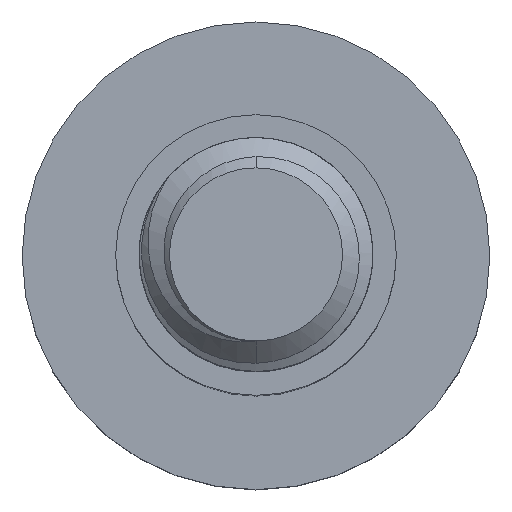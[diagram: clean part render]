
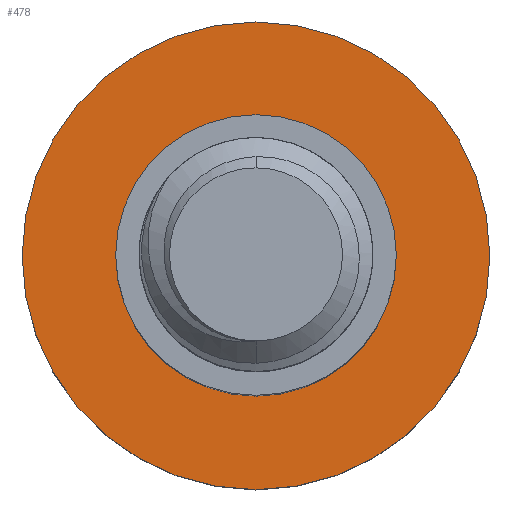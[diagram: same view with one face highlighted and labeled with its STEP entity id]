
A CAD part, top view. The second image highlights one B-rep face of the part: STEP entity #478.
In plain terms, the highlighted planar face has unit normal (0, 0, 1).
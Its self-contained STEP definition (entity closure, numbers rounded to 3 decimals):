
#234 = CARTESIAN_POINT ( 'NONE',  ( 0., 0., -20. ) ) ;
#328 = AXIS2_PLACEMENT_3D ( 'NONE', #3316, #843, #1981 ) ;
#342 = DIRECTION ( 'NONE',  ( -1., 0., 0. ) ) ;
#378 = AXIS2_PLACEMENT_3D ( 'NONE', #2821, #3369, #342 ) ;
#415 = ORIENTED_EDGE ( 'NONE', *, *, #544, .T. ) ;
#478 = ADVANCED_FACE ( 'NONE', ( #551, #3527 ), #3489, .F. ) ;
#544 = EDGE_CURVE ( 'NONE', #714, #2482, #2218, .T. ) ;
#551 = FACE_BOUND ( 'NONE', #2898, .T. ) ;
#714 = VERTEX_POINT ( 'NONE', #1478 ) ;
#776 = EDGE_CURVE ( 'NONE', #2482, #714, #2271, .T. ) ;
#829 = CARTESIAN_POINT ( 'NONE',  ( -10., 0., -20. ) ) ;
#843 = DIRECTION ( 'NONE',  ( 0., 0., -1. ) ) ;
#845 = DIRECTION ( 'NONE',  ( -1., 0., 0. ) ) ;
#1088 = CIRCLE ( 'NONE', #1823, 10. ) ;
#1108 = DIRECTION ( 'NONE',  ( 0., 0., -1. ) ) ;
#1130 = CARTESIAN_POINT ( 'NONE',  ( 0., 0., -20. ) ) ;
#1296 = VERTEX_POINT ( 'NONE', #1900 ) ;
#1312 = DIRECTION ( 'NONE',  ( 0., 0., -1. ) ) ;
#1336 = EDGE_LOOP ( 'NONE', ( #2765, #2815 ) ) ;
#1478 = CARTESIAN_POINT ( 'NONE',  ( -6., 0., -20. ) ) ;
#1570 = EDGE_CURVE ( 'NONE', #1296, #2181, #1088, .T. ) ;
#1578 = CARTESIAN_POINT ( 'NONE',  ( 0., 0., -20. ) ) ;
#1709 = AXIS2_PLACEMENT_3D ( 'NONE', #1578, #1312, #1937 ) ;
#1823 = AXIS2_PLACEMENT_3D ( 'NONE', #1130, #2829, #845 ) ;
#1900 = CARTESIAN_POINT ( 'NONE',  ( 10., 0., -20. ) ) ;
#1937 = DIRECTION ( 'NONE',  ( -1., 0., 0. ) ) ;
#1981 = DIRECTION ( 'NONE',  ( -1., 0., 0. ) ) ;
#2141 = DIRECTION ( 'NONE',  ( -1., 0., 0. ) ) ;
#2181 = VERTEX_POINT ( 'NONE', #829 ) ;
#2199 = CARTESIAN_POINT ( 'NONE',  ( 6., 0., -20. ) ) ;
#2218 = CIRCLE ( 'NONE', #3546, 6. ) ;
#2271 = CIRCLE ( 'NONE', #328, 6. ) ;
#2482 = VERTEX_POINT ( 'NONE', #2199 ) ;
#2765 = ORIENTED_EDGE ( 'NONE', *, *, #1570, .F. ) ;
#2815 = ORIENTED_EDGE ( 'NONE', *, *, #2923, .F. ) ;
#2821 = CARTESIAN_POINT ( 'NONE',  ( 0., 0., -20. ) ) ;
#2829 = DIRECTION ( 'NONE',  ( 0., 0., -1. ) ) ;
#2898 = EDGE_LOOP ( 'NONE', ( #415, #3338 ) ) ;
#2923 = EDGE_CURVE ( 'NONE', #2181, #1296, #3273, .T. ) ;
#3273 = CIRCLE ( 'NONE', #378, 10. ) ;
#3316 = CARTESIAN_POINT ( 'NONE',  ( 0., 0., -20. ) ) ;
#3338 = ORIENTED_EDGE ( 'NONE', *, *, #776, .T. ) ;
#3369 = DIRECTION ( 'NONE',  ( 0., 0., -1. ) ) ;
#3489 = PLANE ( 'NONE',  #1709 ) ;
#3527 = FACE_OUTER_BOUND ( 'NONE', #1336, .T. ) ;
#3546 = AXIS2_PLACEMENT_3D ( 'NONE', #234, #1108, #2141 ) ;
